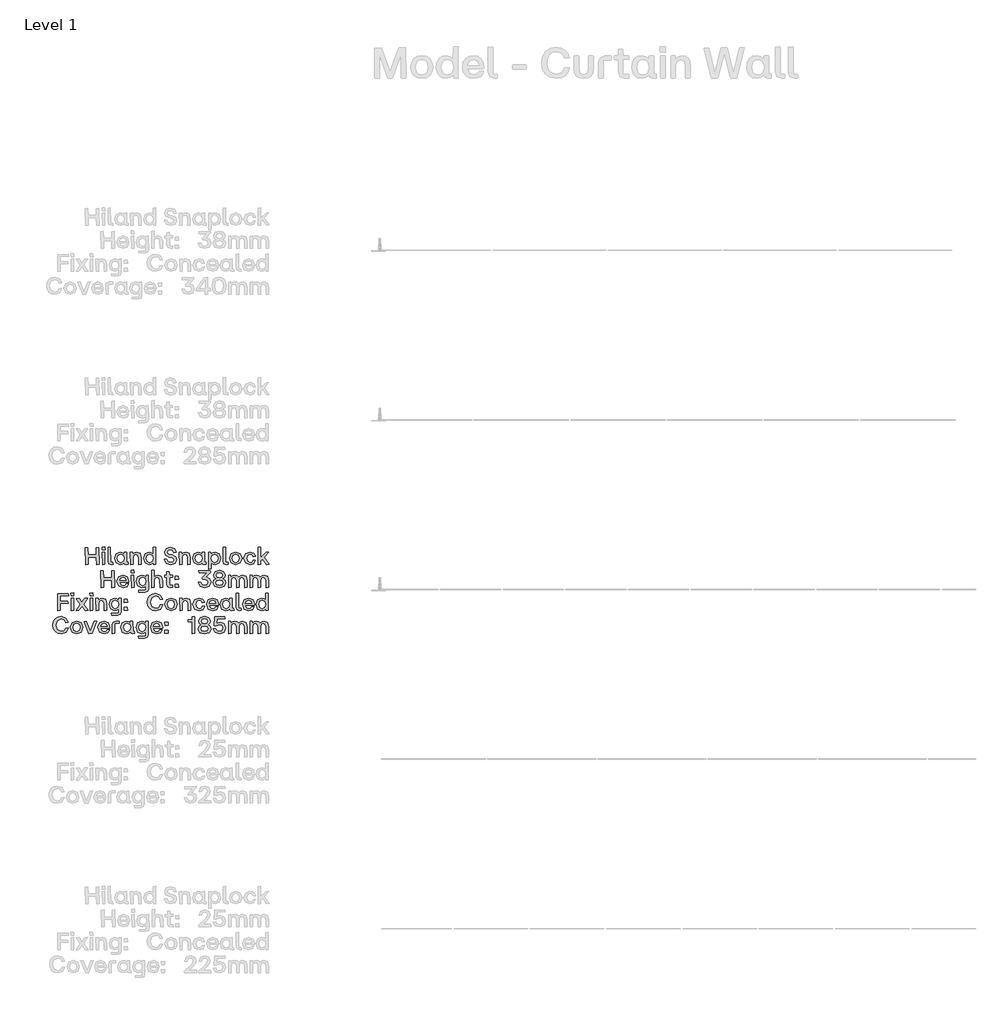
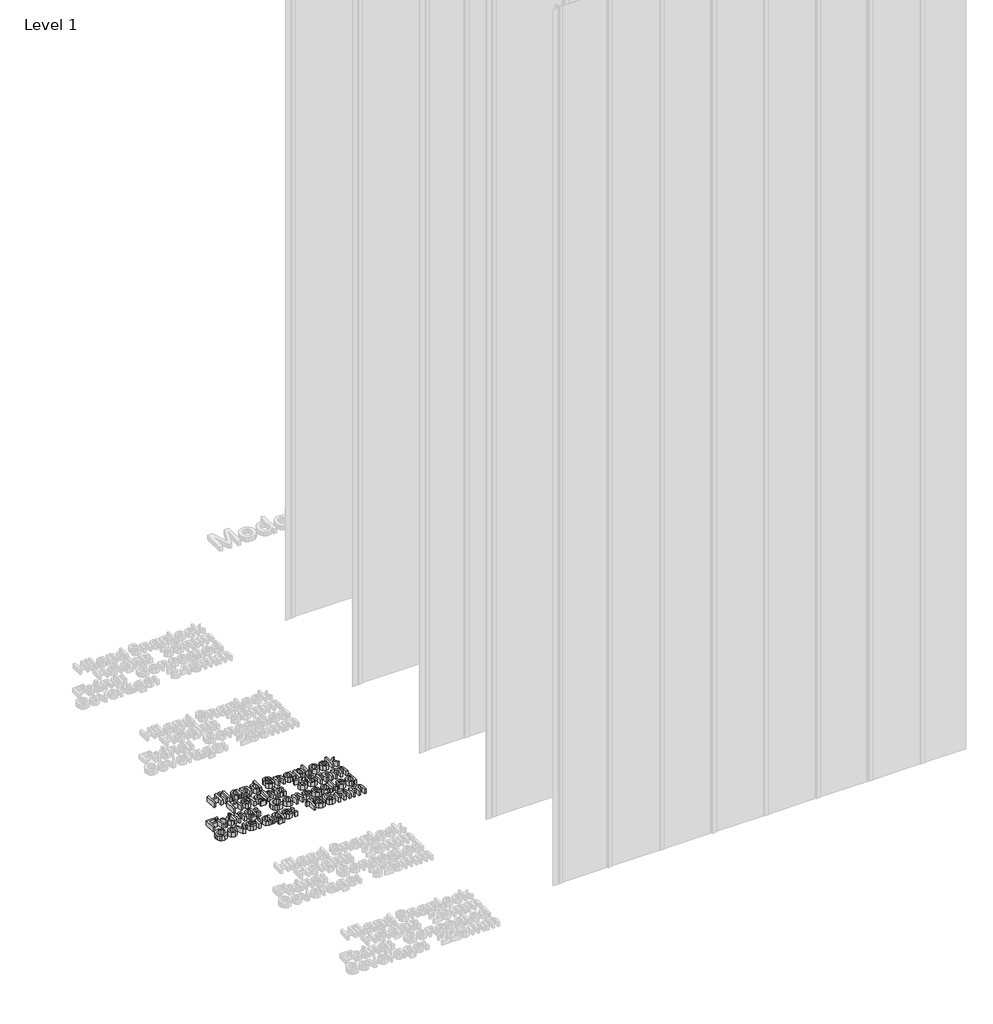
# One storey, part 5 of 64: 1 proxy.
"""IFC4 building model written with IfcOpenShell, lengths in millimetres."""

import ifcopenshell
import ifcopenshell.guid

model = None  # the IFC model being written
_history = None  # IfcOwnerHistory: only IFC2X3 demands one
_inside = {}  # id of a spatial element -> (the spatial element, [elements in it])
_under = {}  # id of a project, library or spatial element -> (it, [spatial elements below it])
_declared = {}  # id of a project -> (the project, [libraries it declares])
_typed = {}  # id of a type object -> (the type object, [elements of that type])
_made_of = {}  # id of a material, layer set ... -> (it, [elements and type objects made of it])


def new_model(schema):
    """Start an empty IFC model of exactly this schema.

    Asked for "IFC4X3", IfcOpenShell would pick the latest addendum, in which some entities
    have other attributes; the version numbers below select the first issue.
    IFC2X3 requires an IfcOwnerHistory on every rooted entity: one is made here for all.
    """
    global model, _history
    if schema == "IFC4X3":
        model = ifcopenshell.file(schema_version=(4, 3, 0, 0))
    else:
        model = ifcopenshell.file(schema=schema)
    _inside.clear()
    _under.clear()
    _declared.clear()
    _typed.clear()
    _made_of.clear()
    _history = None
    if model.schema == "IFC2X3":
        org = make("IfcOrganization", Name="unknown")
        user = make(
            "IfcPersonAndOrganization",
            ThePerson=make("IfcPerson", FamilyName="unknown"),
            TheOrganization=org,
        )
        app = make(
            "IfcApplication",
            ApplicationDeveloper=org,
            Version="unknown",
            ApplicationFullName="unknown",
            ApplicationIdentifier="unknown",
        )
        _history = make(
            "IfcOwnerHistory",
            OwningUser=user,
            OwningApplication=app,
            ChangeAction="ADDED",
            CreationDate=0,
        )
    return model


def make(cls, **values):
    """One entity of the class cls with the attributes given. An attribute that is None is left unset."""
    return model.create_entity(
        cls, **{name: value for name, value in values.items() if value is not None}
    )


def rooted(cls, **values):
    """An entity with a GlobalId (a new one), such as an element, a storey or a relation."""
    return make(cls, GlobalId=ifcopenshell.guid.new(), OwnerHistory=_history, **values)


def si_unit(unit_type, name, prefix=None):
    """IfcSIUnit, for example si_unit("LENGTHUNIT", "METRE", prefix="MILLI")."""
    return make("IfcSIUnit", UnitType=unit_type, Prefix=prefix, Name=name)


def assignment(units):
    """IfcUnitAssignment: the units of a project."""
    return None if units is None else make("IfcUnitAssignment", Units=units)


def point(xyz):
    """IfcCartesianPoint."""
    return None if xyz is None else make("IfcCartesianPoint", Coordinates=xyz)


def direction(xyz):
    """IfcDirection."""
    return None if xyz is None else make("IfcDirection", DirectionRatios=xyz)


def frame(location, z_axis=None, x_axis=None):
    """IfcAxis2Placement3D, a coordinate frame: its origin and axes. An axis left out is left unset."""
    return make(
        "IfcAxis2Placement3D",
        Location=point(location),
        Axis=direction(z_axis),
        RefDirection=direction(x_axis),
    )


def origin():
    """The frame at (0, 0, 0) with its axes left unset."""
    return frame((0.0, 0.0, 0.0))


def origin_with_axes():
    """The frame at (0, 0, 0) with the z axis (0, 0, 1) and the x axis (1, 0, 0) written out."""
    return frame((0.0, 0.0, 0.0), z_axis=(0.0, 0.0, 1.0), x_axis=(1.0, 0.0, 0.0))


def place(relative_to, where):
    """IfcLocalPlacement: puts the frame where relative to a parent placement (None: the world)."""
    return make(
        "IfcLocalPlacement", PlacementRelTo=relative_to, RelativePlacement=where
    )


def context(
    kind, dimensions, precision=None, world=None, true_north=None, identifier=None
):
    """IfcGeometricRepresentationContext, for example the 3D "Model" context."""
    return make(
        "IfcGeometricRepresentationContext",
        ContextIdentifier=identifier,
        ContextType=kind,
        CoordinateSpaceDimension=dimensions,
        Precision=precision,
        WorldCoordinateSystem=world,
        TrueNorth=true_north,
    )


def project(units=None, contexts=None):
    """IfcProject with its units and contexts."""
    return rooted(
        "IfcProject",
        Name="project",
        RepresentationContexts=contexts,
        UnitsInContext=assignment(units),
    )


def spatial(cls, under=None, at=None, **own):
    """A site, building, storey or space (cls), placed at a placement, below another one or the project."""
    s = rooted(cls, ObjectPlacement=at, **own)
    if under is not None:
        _under.setdefault(under.id(), (under, []))[1].append(s)
    return s


def polyline(points):
    """IfcPolyline through the points."""
    return make("IfcPolyline", Points=[point(p) for p in points])


def outline(outer, holes=None, kind="AREA"):
    """IfcArbitraryClosedProfileDef: a profile drawn as a closed curve; with holes, ...WithVoids."""
    if holes is None:
        return make("IfcArbitraryClosedProfileDef", ProfileType=kind, OuterCurve=outer)
    return make(
        "IfcArbitraryProfileDefWithVoids",
        ProfileType=kind,
        OuterCurve=outer,
        InnerCurves=holes,
    )


def extrude(swept, where, along, depth):
    """IfcExtrudedAreaSolid: the profile swept, set in the frame where, extruded along a direction by depth."""
    return make(
        "IfcExtrudedAreaSolid",
        SweptArea=swept,
        Position=where,
        ExtrudedDirection=direction(along),
        Depth=depth,
    )


def shape(context_of_items, identifier, shape_type, items):
    """IfcShapeRepresentation: the items that make up one representation, for example the "Body"."""
    return make(
        "IfcShapeRepresentation",
        ContextOfItems=context_of_items,
        RepresentationIdentifier=identifier,
        RepresentationType=shape_type,
        Items=items,
    )


def made_of(thing, what):
    """Note that an element or type object is made of a material, layer set ...; save() writes the relation."""
    if what is not None:
        _made_of.setdefault(what.id(), (what, []))[1].append(thing)
    return thing


def element(
    cls,
    number,
    at=None,
    inside=None,
    cuts=None,
    type_object=None,
    material=None,
    context=None,
    identifier="Body",
    shape_type=None,
    held_by="IfcProductDefinitionShape",
    body=None,
    shapes=None,
    **own,
):
    """One element of the class cls, such as IfcWall. Its Tag is "e" and its number.

    at: its placement. inside: the storey or other place that contains it. cuts: it is an
    opening in that element (IfcRelVoidsElement). A single representation is given by context,
    identifier, shape_type and body (its items); several are given by shapes. held_by: the class
    of the entity that holds the representations. save() writes the other relations.
    """
    e = rooted(cls, Tag="e%d" % number, ObjectPlacement=at, **own)
    if body is not None:
        shapes = [shape(context, identifier, shape_type, body)]
    if shapes is not None:
        e.Representation = make(held_by, Representations=shapes)
    if inside is not None:
        _inside.setdefault(inside.id(), (inside, []))[1].append(e)
    if cuts is not None:
        rooted(
            "IfcRelVoidsElement", RelatingBuildingElement=cuts, RelatedOpeningElement=e
        )
    if type_object is not None:
        _typed.setdefault(type_object.id(), (type_object, []))[1].append(e)
    return made_of(e, material)


def aggregate(whole, parts):
    """IfcRelAggregates: a whole, such as a stair, and the parts it consists of."""
    return rooted("IfcRelAggregates", RelatingObject=whole, RelatedObjects=parts)


def save(model, path):
    """Write the relations noted so far, then the file.

    IfcRelAggregates (storeys below a building ...), IfcRelContainedInSpatialStructure (elements
    in a storey), IfcRelDefinesByType, IfcRelAssociatesMaterial and IfcRelDeclares: one each for
    every whole, place, type object, material and project.
    """
    for whole, parts in _under.values():
        aggregate(whole, parts)
    for where, things in _inside.values():
        rooted(
            "IfcRelContainedInSpatialStructure",
            RelatedElements=things,
            RelatingStructure=where,
        )
    for kind, things in _typed.values():
        rooted("IfcRelDefinesByType", RelatedObjects=things, RelatingType=kind)
    for what, things in _made_of.values():
        rooted("IfcRelAssociatesMaterial", RelatedObjects=things, RelatingMaterial=what)
    for by, libraries in _declared.values():
        rooted("IfcRelDeclares", RelatingContext=by, RelatedDefinitions=libraries)
    model.write(path)


model = new_model("IFC4")

# Units and contexts
model_context = context("Model", 3, world=origin())
ifc_project = project(units=[si_unit("LENGTHUNIT", "METRE", prefix="MILLI")], contexts=[model_context])

# Site, building, storey
site = spatial("IfcSite", under=ifc_project)
building = spatial("IfcBuilding", under=site)
storey = spatial("IfcBuildingStorey", under=building, Name="Level 1", Elevation=0.0)

# Proxy
placement = place(None, origin())
element("IfcBuildingElementProxy", 1, Name="50mm", ObjectType="50mm", at=placement, inside=storey, context=model_context, shape_type="SweptSolid", body=[
    extrude(outline(polyline([(-811.1721134, -7933.5188866), (-811.8694452, -7911.5808277), (-835.7181932, -7911.5808277), (-835.7181932, -7932.8215548), (-843.2214836, -7933.5188866), (-843.9467087, -7884.2454206), (-836.457365, -7883.5201955), (-835.7181932, -7904.6075096), (-811.8694452, -7904.6075096), (-811.8694452, -7884.2454206), (-804.3801015, -7883.5201955), (-803.6827697, -7932.8215548), (-811.1721134, -7933.5188866)])), origin_with_axes(), (0.0, 0.0, 1.0), 20.0),
    extrude(outline(polyline([(-793.585405, -7933.5188866), (-794.3106301, -7897.8154977), (-787.1002191, -7897.1181659), (-786.4028873, -7932.8215548), (-793.585405, -7933.5188866)])), origin_with_axes(), (0.0, 0.0, 1.0), 20.0),
    extrude(outline(polyline([(-794.5198296, -7890.4516737), (-794.8684955, -7882.4044646), (-786.4726205, -7881.6652929), (-785.7334488, -7890.1030078), (-794.5198296, -7890.4516737)])), origin_with_axes(), (0.0, 0.0, 1.0), 20.0),
    extrude(outline(polyline([(-767.0031162, -7933.5188866), (-774.7016595, -7930.8690257), (-777.3515204, -7923.1565359), (-777.3515204, -7882.8228637), (-770.1411094, -7882.083692), (-769.4437776, -7927.2429003), (-762.7772854, -7927.2429003), (-762.0799536, -7932.8215548), (-767.0031162, -7933.5188866)])), origin_with_axes(), (0.0, 0.0, 1.0), 20.0),
    extrude(outline(polyline([(-741.9131175, -7933.9372857), (-753.6840786, -7928.8955767), (-758.0633224, -7915.3882594), (-753.6840786, -7901.7484491), (-741.9131175, -7896.6579269), (-735.2954386, -7898.2617901), (-730.3095161, -7902.6549805), (-729.9887435, -7897.8154977), (-722.8062258, -7897.1181659), (-722.0810007, -7927.2429003), (-718.1341027, -7927.2429003), (-717.4367709, -7932.8215548), (-723.4338245, -7933.5188866), (-728.0885143, -7932.2113895), (-729.6400776, -7928.288898), (-734.9955859, -7932.3334225), (-741.9131175, -7933.9372857)]), holes=[polyline([(-750.0021666, -7915.3882594), (-747.2477059, -7924.2792401), (-739.7234956, -7927.521833), (-732.3596717, -7924.2931867), (-729.7098108, -7915.3882594), (-732.3805916, -7906.392679), (-739.7234956, -7903.1152195), (-747.2477059, -7906.392679), (-750.0021666, -7915.3882594)])]), origin_with_axes(), (0.0, 0.0, 1.0), 20.0),
    extrude(outline(polyline([(-710.5750258, -7933.5188866), (-711.3002509, -7897.8154977), (-704.4385058, -7897.1181659), (-703.741174, -7902.6549805), (-698.5774319, -7898.1571903), (-691.9562663, -7896.6579269), (-682.3958472, -7900.8419178), (-679.083521, -7913.0870644), (-679.083521, -7932.8215548), (-686.3078786, -7933.5188866), (-687.0331037, -7913.0870644), (-688.9856328, -7905.7092939), (-695.1570194, -7903.3941522), (-701.3841925, -7905.7441604), (-703.3925081, -7913.0870644), (-703.3925081, -7932.8215548), (-710.5750258, -7933.5188866)])), origin_with_axes(), (0.0, 0.0, 1.0), 20.0),
    extrude(outline(polyline([(-656.2249842, -7933.9372857), (-667.9959452, -7928.8955767), (-672.375189, -7915.3882594), (-667.9959452, -7901.7484491), (-656.2249842, -7896.6579269), (-649.6073052, -7898.2617901), (-644.6213828, -7902.6549805), (-644.3006101, -7882.8228637), (-637.1180924, -7882.083692), (-636.3928674, -7932.8215548), (-643.2546124, -7933.5188866), (-643.9519442, -7928.0099653), (-649.3074526, -7932.3334225), (-656.2249842, -7933.9372857)]), holes=[polyline([(-664.3140332, -7915.3882594), (-661.5595725, -7924.2792401), (-654.0353623, -7927.521833), (-646.6715383, -7924.2931867), (-644.0216774, -7915.3882594), (-646.6924583, -7906.392679), (-654.0353623, -7903.1152195), (-661.5595725, -7906.392679), (-664.3140332, -7915.3882594)])]), origin_with_axes(), (0.0, 0.0, 1.0), 20.0),
    extrude(outline(polyline([(-592.2378169, -7933.9372857), (-605.8218406, -7929.823028), (-611.8049476, -7918.1078535), (-604.4411236, -7917.2989486), (-600.2780527, -7924.9417053), (-592.2378169, -7927.1034339), (-585.2854187, -7925.1160383), (-582.7959441, -7919.6001436), (-584.5183537, -7915.0186736), (-590.2852878, -7912.7383985), (-596.8820467, -7911.5808277), (-607.3629439, -7906.8180514), (-610.8565763, -7897.4668318), (-606.3797061, -7886.9022548), (-593.8835199, -7883.1017964), (-581.2897074, -7886.951068), (-575.6831596, -7897.8154977), (-583.0051436, -7898.610456), (-587.0287482, -7891.8672573), (-593.8835199, -7889.9635415), (-600.417519, -7891.706871), (-602.6699008, -7896.7973933), (-600.6615852, -7901.6299027), (-594.3716522, -7904.1612172), (-587.8167332, -7905.3048414), (-577.7193685, -7909.8932847), (-574.5953219, -7919.4606772), (-579.2883651, -7930.1019607), (-592.2378169, -7933.9372857)])), origin_with_axes(), (0.0, 0.0, 1.0), 20.0),
    extrude(outline(polyline([(-565.9763007, -7933.5188866), (-566.7015258, -7897.8154977), (-559.8397808, -7897.1181659), (-559.1424489, -7902.6549805), (-553.9787069, -7898.1571903), (-547.3575413, -7896.6579269), (-537.7971221, -7900.8419178), (-534.484796, -7913.0870644), (-534.484796, -7932.8215548), (-541.7091536, -7933.5188866), (-542.4343787, -7913.0870644), (-544.3869077, -7905.7092939), (-550.5582943, -7903.3941522), (-556.7854674, -7905.7441604), (-558.793783, -7913.0870644), (-558.793783, -7932.8215548), (-565.9763007, -7933.5188866)])), origin_with_axes(), (0.0, 0.0, 1.0), 20.0),
    extrude(outline(polyline([(-511.6262591, -7933.9372857), (-523.3972201, -7928.8955767), (-527.7764639, -7915.3882594), (-523.3972201, -7901.7484491), (-511.6262591, -7896.6579269), (-505.0085802, -7898.2617901), (-500.0226577, -7902.6549805), (-499.7018851, -7897.8154977), (-492.5193674, -7897.1181659), (-491.7941423, -7927.2429003), (-487.8472442, -7927.2429003), (-487.1499124, -7932.8215548), (-493.146966, -7933.5188866), (-497.8016559, -7932.2113895), (-499.3532192, -7928.288898), (-504.7087275, -7932.3334225), (-511.6262591, -7933.9372857)]), holes=[polyline([(-519.7153081, -7915.3882594), (-516.9608475, -7924.2792401), (-509.4366372, -7927.521833), (-502.0728132, -7924.2931867), (-499.4229523, -7915.3882594), (-502.0937332, -7906.392679), (-509.4366372, -7903.1152195), (-516.9608475, -7906.392679), (-519.7153081, -7915.3882594)])]), origin_with_axes(), (0.0, 0.0, 1.0), 20.0),
    extrude(outline(polyline([(-480.2881673, -7947.0750171), (-481.0133924, -7897.8154977), (-474.1516474, -7897.1181659), (-473.4543156, -7902.5852473), (-468.0988072, -7898.2617901), (-461.1812756, -7896.6579269), (-449.4103146, -7901.7135826), (-445.0310708, -7915.2487931), (-449.4103146, -7928.8607101), (-461.1812756, -7933.9372857), (-467.7989545, -7932.3334225), (-472.784877, -7927.9402321), (-473.1056497, -7946.3776853), (-480.2881673, -7947.0750171)]), holes=[polyline([(-473.3845824, -7915.2487931), (-470.7138015, -7924.2443735), (-463.3708975, -7927.521833), (-455.8466872, -7924.2443735), (-453.0922266, -7915.2487931), (-455.8466872, -7906.3578124), (-463.3708975, -7903.1152195), (-470.7347215, -7906.3368925), (-473.3845824, -7915.2487931)])]), origin_with_axes(), (0.0, 0.0, 1.0), 20.0),
    extrude(outline(polyline([(-427.8209216, -7933.5188866), (-435.5194648, -7930.8690257), (-438.1693257, -7923.1565359), (-438.1693257, -7882.8228637), (-430.9589148, -7882.083692), (-430.261583, -7927.2429003), (-423.5950908, -7927.2429003), (-422.897759, -7932.8215548), (-427.8209216, -7933.5188866)])), origin_with_axes(), (0.0, 0.0, 1.0), 20.0),
    extrude(outline(polyline([(-400.6807674, -7933.9372857), (-413.8394187, -7928.8118969), (-418.8811278, -7915.3882594), (-413.8254721, -7901.8530489), (-400.6807674, -7896.6579269), (-387.410543, -7901.8530489), (-382.3409407, -7915.3882594), (-387.410543, -7928.8118969), (-400.6807674, -7933.9372857)]), holes=[polyline([(-410.819972, -7915.3882594), (-408.1212979, -7924.2931867), (-400.6807674, -7927.521833), (-393.1426105, -7924.2792401), (-390.3881498, -7915.3882594), (-393.1286638, -7906.392679), (-400.6807674, -7903.1152195), (-408.1212979, -7906.392679), (-410.819972, -7915.3882594)])]), origin_with_axes(), (0.0, 0.0, 1.0), 20.0),
    extrude(outline(polyline([(-358.5898191, -7933.9372857), (-371.9228034, -7928.8955767), (-376.9296458, -7915.3882594), (-371.8530702, -7901.8530489), (-358.5898191, -7896.6579269), (-347.5161898, -7900.0957727), (-342.3001479, -7909.1820063), (-349.3153059, -7909.9490713), (-352.8856448, -7904.6493495), (-358.5898191, -7903.1152195), (-366.1488959, -7906.392679), (-368.86849, -7915.3882594), (-366.1349493, -7924.3141067), (-358.5898191, -7927.521833), (-352.7113119, -7926.0574362), (-349.733705, -7921.3155799), (-342.6488138, -7920.6461413), (-347.3069903, -7930.4994399), (-358.5898191, -7933.9372857)])), origin_with_axes(), (0.0, 0.0, 1.0), 20.0),
    extrude(outline(polyline([(-333.9042728, -7933.5188866), (-334.6294979, -7882.8228637), (-327.4190869, -7882.083692), (-326.7217551, -7912.8778649), (-311.4780817, -7897.4668318), (-303.5703389, -7897.1181659), (-316.2896712, -7912.0410667), (-302.2035685, -7932.6402485), (-309.8463252, -7933.5188866), (-321.5614997, -7917.2292154), (-326.7217551, -7922.2918444), (-326.7217551, -7932.8215548), (-333.9042728, -7933.5188866)])), origin_with_axes(), (0.0, 0.0, 1.0), 20.0),
    extrude(outline(polyline([(-765.6502925, -8001.3705811), (-766.3476243, -7979.4325222), (-790.1963724, -7979.4325222), (-790.1963724, -8000.6732493), (-797.6996627, -8001.3705811), (-798.4248878, -7952.0971151), (-790.9355441, -7951.37189), (-790.1963724, -7972.459204), (-766.3476243, -7972.459204), (-766.3476243, -7952.0971151), (-758.8582806, -7951.37189), (-758.1609488, -8000.6732493), (-765.6502925, -8001.3705811)])), origin_with_axes(), (0.0, 0.0, 1.0), 20.0),
    extrude(outline(polyline([(-732.5130847, -8001.7889802), (-745.9158022, -7996.7472711), (-750.9226446, -7983.2399539), (-745.9367221, -7969.586197), (-732.5130847, -7964.5096214), (-720.2330714, -7969.5164638), (-715.7352812, -7983.1702207), (-715.7352812, -7985.0809099), (-742.7917556, -7985.8200816), (-739.7234956, -7992.8631329), (-732.5130847, -7995.3735275), (-726.7252306, -7994.0974102), (-723.7267038, -7990.520098), (-716.6418126, -7989.9343393), (-721.2999891, -7998.6998002), (-732.5130847, -8001.7889802)]), holes=[polyline([(-742.7220224, -7980.0322275), (-723.5175043, -7980.0322275), (-726.1603919, -7973.3866554), (-732.5130847, -7970.966914), (-739.6049492, -7973.2681089), (-742.7220224, -7980.0322275)])]), origin_with_axes(), (0.0, 0.0, 1.0), 20.0),
    extrude(outline(polyline([(-708.8316963, -7958.3033682), (-709.1803622, -7950.2561591), (-700.7844871, -7949.5169873), (-700.0453154, -7957.9547023), (-708.8316963, -7958.3033682)])), origin_with_axes(), (0.0, 0.0, 1.0), 20.0),
    extrude(outline(polyline([(-707.8972716, -8001.3705811), (-708.6224967, -7965.6671922), (-701.4120858, -7964.9698603), (-700.7147539, -8000.6732493), (-707.8972716, -8001.3705811)])), origin_with_axes(), (0.0, 0.0, 1.0), 20.0),
    extrude(outline(polyline([(-686.2241988, -8014.9267115), (-686.9633706, -8009.348057), (-665.7226435, -8008.6507252), (-665.7226435, -7995.7919266), (-671.0293386, -8000.185117), (-677.6470175, -8001.7889802), (-689.4179785, -7996.7124045), (-693.7972223, -7983.1004875), (-689.4179785, -7969.565277), (-677.6470175, -7964.5096214), (-670.7294859, -7966.1134845), (-665.6529103, -7970.4369418), (-665.3739776, -7965.6671922), (-658.5401258, -7964.9698603), (-657.8149007, -8004.9269733), (-660.3950284, -8012.3675038), (-667.8146389, -8014.9267115), (-686.2241988, -8014.9267115)]), holes=[polyline([(-685.7360666, -7983.1004875), (-682.9816059, -7992.0960679), (-675.4573956, -7995.3735275), (-668.1144916, -7992.0960679), (-665.4437108, -7983.1004875), (-668.0935716, -7974.1885869), (-675.4573956, -7970.966914), (-682.9816059, -7974.2095069), (-685.7360666, -7983.1004875)])]), origin_with_axes(), (0.0, 0.0, 1.0), 20.0),
    extrude(outline(polyline([(-648.0940952, -8001.3705811), (-648.8193203, -7950.6745581), (-641.6089093, -7949.9353864), (-640.9115775, -7970.2277422), (-635.8245419, -7965.9391516), (-629.4753358, -7964.5096214), (-619.9149166, -7968.6936122), (-616.6025905, -7980.9387589), (-616.6025905, -8000.6732493), (-623.8269481, -8001.3705811), (-624.5521731, -7980.9387589), (-626.5047022, -7973.5609883), (-632.6760888, -7971.2458467), (-638.9032619, -7973.5958549), (-640.9115775, -7980.9387589), (-640.9115775, -8000.6732493), (-648.0940952, -8001.3705811)])), origin_with_axes(), (0.0, 0.0, 1.0), 20.0),
    extrude(outline(polyline([(-593.3256545, -8001.3705811), (-601.0381444, -7998.7207202), (-603.6880053, -7991.0082303), (-603.6880053, -7971.2458467), (-609.8942584, -7971.2458467), (-610.6194835, -7965.6671922), (-603.6880053, -7964.9698603), (-603.6880053, -7954.9561755), (-596.4636477, -7954.2309504), (-595.7663158, -7964.9698603), (-586.979935, -7964.9698603), (-586.2547099, -7970.506675), (-595.7663158, -7971.2458467), (-595.7663158, -7995.0945947), (-586.979935, -7995.0945947), (-586.2547099, -8000.6732493), (-593.3256545, -8001.3705811)])), origin_with_axes(), (0.0, 0.0, 1.0), 20.0),
    extrude(outline(polyline([(-578.849046, -7977.7310326), (-579.5463778, -7968.1078535), (-570.0626652, -7967.3686818), (-569.3374401, -7977.0337007), (-578.849046, -7977.7310326)])), origin_with_axes(), (0.0, 0.0, 1.0), 20.0),
    extrude(outline(polyline([(-579.1977119, -8001.0219152), (-579.5463778, -7991.747402), (-570.0626652, -7991.0082303), (-569.3374401, -8000.6732493), (-579.1977119, -8001.0219152)])), origin_with_axes(), (0.0, 0.0, 1.0), 20.0),
    extrude(outline(polyline([(-491.7244091, -8001.7889802), (-505.1201533, -7997.7235357), (-510.9428739, -7985.959548), (-503.57905, -7985.1506431), (-499.415979, -7992.7236666), (-491.7244091, -7994.9551284), (-484.5837313, -7992.5493336), (-481.9338704, -7985.959548), (-484.7022777, -7979.0908296), (-493.3701122, -7976.8942344), (-498.8093003, -7976.8942344), (-499.5066322, -7972.8078699), (-486.1457546, -7958.6520341), (-508.8508785, -7958.3731014), (-509.5761036, -7952.0971151), (-475.8670836, -7951.37189), (-475.1697518, -7956.1834795), (-488.0703904, -7970.0882759), (-477.3454271, -7975.2136647), (-473.7332483, -7985.959548), (-478.5797044, -7997.5352561), (-491.7244091, -8001.7889802)])), origin_with_axes(), (0.0, 0.0, 1.0), 20.0),
    extrude(outline(polyline([(-434.5710936, -7998.1768014), (-448.6153563, -8001.7889802), (-462.6875123, -7998.1768014), (-467.6246216, -7987.8702371), (-465.1490936, -7980.1368273), (-458.4895748, -7975.8063967), (-464.0542827, -7971.1691402), (-465.9091853, -7964.370155), (-461.2231155, -7954.5796163), (-448.6223296, -7950.9534909), (-436.0354904, -7954.5796163), (-431.3633672, -7964.370155), (-433.2182699, -7971.1691402), (-438.7829777, -7975.527464), (-432.1234589, -7980.1368273), (-429.647931, -7987.8702371), (-434.5710936, -7998.1768014)]), holes=[polyline([(-459.4239995, -7986.9358125), (-456.7218387, -7992.9502994), (-448.6153563, -7994.9551284), (-440.5402539, -7992.9502994), (-437.8485531, -7986.9358125), (-440.5402539, -7981.3606446), (-448.6153563, -7979.5022554), (-456.7218387, -7981.3606446), (-459.4239995, -7986.9358125)]), polyline([(-457.6806699, -7965.4579926), (-455.3446083, -7970.8065276), (-448.6153563, -7972.6684036), (-441.8861043, -7970.8065276), (-439.5500427, -7965.4579926), (-441.8861043, -7959.788685), (-448.6153563, -7957.8152359), (-455.3446083, -7959.788685), (-457.6806699, -7965.4579926)])]), origin_with_axes(), (0.0, 0.0, 1.0), 20.0),
    extrude(outline(polyline([(-421.3775756, -8001.3705811), (-422.1028007, -7965.6671922), (-415.2410557, -7964.9698603), (-414.5437239, -7970.506675), (-409.5578014, -7966.0088848), (-403.1074821, -7964.5096214), (-396.8210358, -7966.0088848), (-392.605665, -7970.506675), (-386.7829443, -7966.0646713), (-379.5376668, -7964.5096214), (-370.2631536, -7968.6796656), (-367.0554273, -7980.9387589), (-367.0554273, -8000.6732493), (-374.2658383, -8001.3705811), (-374.9631701, -7980.9387589), (-376.845966, -7973.5609883), (-382.8151263, -7971.2458467), (-388.7215268, -7973.5958549), (-390.6252426, -7980.9387589), (-390.6252426, -8000.6732493), (-397.8356536, -8001.3705811), (-398.5329854, -7980.9387589), (-400.4018347, -7973.5609883), (-406.3152085, -7971.2458467), (-412.2913421, -7973.5958549), (-414.195058, -7980.9387589), (-414.195058, -8000.6732493), (-421.3775756, -8001.3705811)])), origin_with_axes(), (0.0, 0.0, 1.0), 20.0),
    extrude(outline(polyline([(-358.0040603, -8001.3705811), (-358.7292854, -7965.6671922), (-351.8675404, -7964.9698603), (-351.1702086, -7970.506675), (-346.1842861, -7966.0088848), (-339.7339668, -7964.5096214), (-333.4475205, -7966.0088848), (-329.2321497, -7970.506675), (-323.409429, -7966.0646713), (-316.1641515, -7964.5096214), (-306.8896383, -7968.6796656), (-303.681912, -7980.9387589), (-303.681912, -8000.6732493), (-310.8923229, -8001.3705811), (-311.5896548, -7980.9387589), (-313.4724507, -7973.5609883), (-319.441611, -7971.2458467), (-325.3480115, -7973.5958549), (-327.2517273, -7980.9387589), (-327.2517273, -8000.6732493), (-334.4621383, -8001.3705811), (-335.1594701, -7980.9387589), (-337.0283194, -7973.5609883), (-342.9416931, -7971.2458467), (-348.9178268, -7973.5958549), (-350.8215426, -7980.9387589), (-350.8215426, -8000.6732493), (-358.0040603, -8001.3705811)])), origin_with_axes(), (0.0, 0.0, 1.0), 20.0),
    extrude(outline(polyline([(-925.3392781, -8069.2222755), (-926.0645031, -8019.9488095), (-894.4753719, -8019.2235844), (-893.7780401, -8025.527464), (-917.8359877, -8026.2247958), (-917.8359877, -8041.287163), (-895.9118755, -8041.287163), (-895.2145437, -8047.5631494), (-917.8359877, -8048.3023211), (-917.8359877, -8068.5249437), (-925.3392781, -8069.2222755)])), origin_with_axes(), (0.0, 0.0, 1.0), 20.0),
    extrude(outline(polyline([(-885.5216314, -8069.2222755), (-886.2468565, -8033.5188866), (-879.0364456, -8032.8215548), (-878.3391137, -8068.5249437), (-885.5216314, -8069.2222755)])), origin_with_axes(), (0.0, 0.0, 1.0), 20.0),
    extrude(outline(polyline([(-886.4560561, -8026.1550627), (-886.804722, -8018.1078535), (-878.4088469, -8017.3686818), (-877.6696752, -8025.8063967), (-886.4560561, -8026.1550627)])), origin_with_axes(), (0.0, 0.0, 1.0), 20.0),
    extrude(outline(polyline([(-871.4215821, -8069.2222755), (-858.6604099, -8050.7429824), (-870.8637167, -8033.658353), (-862.8722941, -8032.8215548), (-854.0859132, -8044.815662), (-845.8573978, -8033.2399539), (-837.7404555, -8032.8215548), (-849.3440569, -8049.9340775), (-836.303952, -8068.3436374), (-844.2953746, -8069.2222755), (-854.0161801, -8055.7916648), (-863.2906932, -8068.8038764), (-871.4215821, -8069.2222755)])), origin_with_axes(), (0.0, 0.0, 1.0), 20.0),
    extrude(outline(polyline([(-829.2887939, -8069.2222755), (-830.014019, -8033.5188866), (-822.803608, -8032.8215548), (-822.1062762, -8068.5249437), (-829.2887939, -8069.2222755)])), origin_with_axes(), (0.0, 0.0, 1.0), 20.0),
    extrude(outline(polyline([(-830.2232185, -8026.1550627), (-830.5718844, -8018.1078535), (-822.1760094, -8017.3686818), (-821.4368377, -8025.8063967), (-830.2232185, -8026.1550627)])), origin_with_axes(), (0.0, 0.0, 1.0), 20.0),
    extrude(outline(polyline([(-812.3296842, -8069.2222755), (-813.0549093, -8033.5188866), (-806.1931642, -8032.8215548), (-805.4958324, -8038.3583694), (-800.3320903, -8033.8605792), (-793.7109247, -8032.3613158), (-784.1505056, -8036.5453067), (-780.8381794, -8048.7904534), (-780.8381794, -8068.5249437), (-788.062537, -8069.2222755), (-788.7877621, -8048.7904534), (-790.7402912, -8041.4126828), (-796.9116778, -8039.0975411), (-803.1388509, -8041.4475493), (-805.1471665, -8048.7904534), (-805.1471665, -8068.5249437), (-812.3296842, -8069.2222755)])), origin_with_axes(), (0.0, 0.0, 1.0), 20.0),
    extrude(outline(polyline([(-766.5568239, -8082.778406), (-767.2959956, -8077.1997515), (-746.0552685, -8076.5024197), (-746.0552685, -8063.643621), (-751.3619636, -8068.0368114), (-757.9796426, -8069.6406746), (-769.7506036, -8064.564099), (-774.1298474, -8050.952182), (-769.7506036, -8037.4169715), (-757.9796426, -8032.3613158), (-751.0621109, -8033.965179), (-745.9855353, -8038.2886362), (-745.7066026, -8033.5188866), (-738.8727508, -8032.8215548), (-738.1475257, -8072.7786678), (-740.7276535, -8080.2191982), (-748.147264, -8082.778406), (-766.5568239, -8082.778406)]), holes=[polyline([(-766.0686916, -8050.952182), (-763.3142309, -8059.9477624), (-755.7900207, -8063.2252219), (-748.4471166, -8059.9477624), (-745.7763358, -8050.952182), (-748.4261967, -8042.0402814), (-755.7900207, -8038.8186084), (-763.3142309, -8042.0612013), (-766.0686916, -8050.952182)])]), origin_with_axes(), (0.0, 0.0, 1.0), 20.0),
    extrude(outline(polyline([(-728.8032794, -8045.582727), (-729.5006112, -8035.959548), (-720.0168986, -8035.2203762), (-719.2916735, -8044.8853952), (-728.8032794, -8045.582727)])), origin_with_axes(), (0.0, 0.0, 1.0), 20.0),
    extrude(outline(polyline([(-729.1519453, -8068.8736096), (-729.5006112, -8059.5990965), (-720.0168986, -8058.8599248), (-719.2916735, -8068.5249437), (-729.1519453, -8068.8736096)])), origin_with_axes(), (0.0, 0.0, 1.0), 20.0),
    extrude(outline(polyline([(-637.0483593, -8069.6406746), (-647.0550708, -8067.9269817), (-654.7605874, -8062.7859029), (-659.6767766, -8054.7160305), (-661.3155064, -8044.2159567), (-659.66283, -8033.8919591), (-654.7048008, -8025.7924501), (-646.9853376, -8020.5520015), (-637.0483593, -8018.8051853), (-622.8716035, -8023.4215219), (-615.9192053, -8035.7085085), (-623.2411893, -8036.5174134), (-628.4049314, -8028.3272513), (-637.0483593, -8025.8063967), (-648.7077472, -8030.743506), (-652.9475246, -8044.2159567), (-648.7286672, -8057.7999804), (-637.0483593, -8062.6673565), (-628.2340851, -8060.1813685), (-623.5480153, -8052.7234048), (-616.1284048, -8052.0679129), (-622.5926707, -8065.0382846), (-637.0483593, -8069.6406746)])), origin_with_axes(), (0.0, 0.0, 1.0), 20.0),
    extrude(outline(polyline([(-591.693898, -8069.6406746), (-604.8525494, -8064.5152858), (-609.8942584, -8051.0916483), (-604.8386027, -8037.5564378), (-591.693898, -8032.3613158), (-578.4236736, -8037.5564378), (-573.3540713, -8051.0916483), (-578.4236736, -8064.5152858), (-591.693898, -8069.6406746)]), holes=[polyline([(-601.8331026, -8051.0916483), (-599.1344285, -8059.9965756), (-591.693898, -8063.2252219), (-584.1557411, -8059.982629), (-581.4012805, -8051.0916483), (-584.1417945, -8042.0960679), (-591.693898, -8038.8186084), (-599.1344285, -8042.0960679), (-601.8331026, -8051.0916483)])]), origin_with_axes(), (0.0, 0.0, 1.0), 20.0),
    extrude(outline(polyline([(-565.083716, -8069.2222755), (-565.8089411, -8033.5188866), (-558.947196, -8032.8215548), (-558.2498642, -8038.3583694), (-553.0861221, -8033.8605792), (-546.4649565, -8032.3613158), (-536.9045374, -8036.5453067), (-533.5922113, -8048.7904534), (-533.5922113, -8068.5249437), (-540.8165689, -8069.2222755), (-541.5417939, -8048.7904534), (-543.494323, -8041.4126828), (-549.6657096, -8039.0975411), (-555.8928827, -8041.4475493), (-557.9011983, -8048.7904534), (-557.9011983, -8068.5249437), (-565.083716, -8069.2222755)])), origin_with_axes(), (0.0, 0.0, 1.0), 20.0),
    extrude(outline(polyline([(-508.5440525, -8069.6406746), (-521.8770368, -8064.5989656), (-526.8838792, -8051.0916483), (-521.8073036, -8037.5564378), (-508.5440525, -8032.3613158), (-497.4704233, -8035.7991616), (-492.2543813, -8044.8853952), (-499.2695393, -8045.6524602), (-502.8398782, -8040.3527384), (-508.5440525, -8038.8186084), (-516.1031293, -8042.0960679), (-518.8227234, -8051.0916483), (-516.0891827, -8060.0174956), (-508.5440525, -8063.2252219), (-502.6655453, -8061.7608251), (-499.6879384, -8057.0189688), (-492.6030472, -8056.3495302), (-497.2612237, -8066.2028288), (-508.5440525, -8069.6406746)])), origin_with_axes(), (0.0, 0.0, 1.0), 20.0),
    extrude(outline(polyline([(-468.3080068, -8069.6406746), (-481.7107242, -8064.5989656), (-486.7175667, -8051.0916483), (-481.7316442, -8037.4378914), (-468.3080068, -8032.3613158), (-456.0279935, -8037.3681582), (-451.5302033, -8051.0219152), (-451.5302033, -8052.9326043), (-478.5866777, -8053.6717761), (-475.5184177, -8060.7148274), (-468.3080068, -8063.2252219), (-462.5201527, -8061.9491047), (-459.5216259, -8058.3717925), (-452.4367347, -8057.7860338), (-457.0949112, -8066.5514947), (-468.3080068, -8069.6406746)]), holes=[polyline([(-478.5169445, -8047.883922), (-459.3124264, -8047.883922), (-461.9553139, -8041.2383498), (-468.3080068, -8038.8186084), (-475.3998713, -8041.1198034), (-478.5169445, -8047.883922)])]), origin_with_axes(), (0.0, 0.0, 1.0), 20.0),
    extrude(outline(polyline([(-430.4010493, -8069.6406746), (-442.1720104, -8064.5989656), (-446.5512542, -8051.0916483), (-442.1720104, -8037.4518381), (-430.4010493, -8032.3613158), (-423.7833704, -8033.965179), (-418.7974479, -8038.3583694), (-418.4766753, -8033.5188866), (-411.2941576, -8032.8215548), (-410.5689325, -8062.9462892), (-406.6220345, -8062.9462892), (-405.9247026, -8068.5249437), (-411.9217562, -8069.2222755), (-416.5764461, -8067.9147784), (-418.1280094, -8063.9922869), (-423.4835177, -8068.0368114), (-430.4010493, -8069.6406746)]), holes=[polyline([(-438.4900984, -8051.0916483), (-435.7356377, -8059.982629), (-428.2114274, -8063.2252219), (-420.8476035, -8059.9965756), (-418.1977426, -8051.0916483), (-420.8685234, -8042.0960679), (-428.2114274, -8038.8186084), (-435.7356377, -8042.0960679), (-438.4900984, -8051.0916483)])]), origin_with_axes(), (0.0, 0.0, 1.0), 20.0),
    extrude(outline(polyline([(-389.4397785, -8069.2222755), (-397.1383218, -8066.5724146), (-399.7881827, -8058.8599248), (-399.7881827, -8018.5262526), (-392.5777717, -8017.7870809), (-391.8804399, -8062.9462892), (-385.2139477, -8062.9462892), (-384.5166159, -8068.5249437), (-389.4397785, -8069.2222755)])), origin_with_axes(), (0.0, 0.0, 1.0), 20.0),
    extrude(outline(polyline([(-362.0904248, -8069.6406746), (-375.4931422, -8064.5989656), (-380.4999847, -8051.0916483), (-375.5140622, -8037.4378914), (-362.0904248, -8032.3613158), (-349.8104115, -8037.3681582), (-345.3126213, -8051.0219152), (-345.3126213, -8052.9326043), (-372.3690957, -8053.6717761), (-369.3008357, -8060.7148274), (-362.0904248, -8063.2252219), (-356.3025707, -8061.9491047), (-353.3040439, -8058.3717925), (-346.2191527, -8057.7860338), (-350.8773292, -8066.5514947), (-362.0904248, -8069.6406746)]), holes=[polyline([(-372.2993625, -8047.883922), (-353.0948444, -8047.883922), (-355.7377319, -8041.2383498), (-362.0904248, -8038.8186084), (-369.1822893, -8041.1198034), (-372.2993625, -8047.883922)])]), origin_with_axes(), (0.0, 0.0, 1.0), 20.0),
    extrude(outline(polyline([(-324.1834673, -8069.6406746), (-335.9544284, -8064.5989656), (-340.3336722, -8051.0916483), (-335.9544284, -8037.4518381), (-324.1834673, -8032.3613158), (-317.5657884, -8033.965179), (-312.5798659, -8038.3583694), (-312.2590933, -8018.5262526), (-305.0765756, -8017.7870809), (-304.3513505, -8068.5249437), (-311.2130956, -8069.2222755), (-311.9104274, -8063.7133542), (-317.2659357, -8068.0368114), (-324.1834673, -8069.6406746)]), holes=[polyline([(-332.2725164, -8051.0916483), (-329.5180557, -8059.982629), (-321.9938454, -8063.2252219), (-314.6300215, -8059.9965756), (-311.9801606, -8051.0916483), (-314.6509414, -8042.0960679), (-321.9938454, -8038.8186084), (-329.5180557, -8042.0960679), (-332.2725164, -8051.0916483)])]), origin_with_axes(), (0.0, 0.0, 1.0), 20.0),
    extrude(outline(polyline([(-915.5347927, -8137.4923691), (-925.5415043, -8135.7786761), (-933.2470208, -8130.6375973), (-938.1632101, -8122.5677249), (-939.8019399, -8112.0676511), (-938.1492635, -8101.7436536), (-933.1912343, -8093.6441446), (-925.4717711, -8088.403696), (-915.5347927, -8086.6568798), (-901.3580369, -8091.2732164), (-894.4056388, -8103.560203), (-901.7276228, -8104.3691079), (-906.8913649, -8096.1789457), (-915.5347927, -8093.6580912), (-927.1941807, -8098.5952004), (-931.4339581, -8112.0676511), (-927.2151006, -8125.6516749), (-915.5347927, -8130.5190509), (-906.7205186, -8128.033063), (-902.0344488, -8120.5750992), (-894.6148383, -8119.9196073), (-901.0791042, -8132.8899791), (-915.5347927, -8137.4923691)])), origin_with_axes(), (0.0, 0.0, 1.0), 20.0),
    extrude(outline(polyline([(-870.1803315, -8137.4923691), (-883.3389829, -8132.3669802), (-888.3806919, -8118.9433428), (-883.3250362, -8105.4081323), (-870.1803315, -8100.2130103), (-856.9101071, -8105.4081323), (-851.8405048, -8118.9433428), (-856.9101071, -8132.3669802), (-870.1803315, -8137.4923691)]), holes=[polyline([(-880.3195361, -8118.9433428), (-877.620862, -8127.8482701), (-870.1803315, -8131.0769164), (-862.6421746, -8127.8343234), (-859.8877139, -8118.9433428), (-862.628228, -8109.9477624), (-870.1803315, -8106.6703029), (-877.620862, -8109.9477624), (-880.3195361, -8118.9433428)])]), origin_with_axes(), (0.0, 0.0, 1.0), 20.0),
    extrude(outline(polyline([(-833.7377709, -8137.07397), (-848.1306995, -8101.5100474), (-840.8784487, -8100.6732493), (-829.4422069, -8130.5887841), (-818.6056705, -8101.2311147), (-811.2418465, -8100.6732493), (-824.3516847, -8136.5161045), (-833.7377709, -8137.07397)])), origin_with_axes(), (0.0, 0.0, 1.0), 20.0),
    extrude(outline(polyline([(-788.7459222, -8137.4923691), (-802.1486397, -8132.45066), (-807.1554821, -8118.9433428), (-802.1695596, -8105.2895859), (-788.7459222, -8100.2130103), (-776.465909, -8105.2198527), (-771.9681188, -8118.8736096), (-771.9681188, -8120.7842988), (-799.0245932, -8121.5234705), (-795.9563332, -8128.5665218), (-788.7459222, -8131.0769164), (-782.9580681, -8129.8007992), (-779.9595413, -8126.2234869), (-772.8746501, -8125.6377282), (-777.5328266, -8134.4031891), (-788.7459222, -8137.4923691)]), holes=[polyline([(-798.95486, -8115.7356165), (-779.7503418, -8115.7356165), (-782.3932294, -8109.0900443), (-788.7459222, -8106.6703029), (-795.8377868, -8108.9714978), (-798.95486, -8115.7356165)])]), origin_with_axes(), (0.0, 0.0, 1.0), 20.0),
    extrude(outline(polyline([(-764.5066683, -8137.07397), (-765.2040001, -8110.9937601), (-762.5541393, -8103.3021902), (-754.855596, -8100.6732493), (-744.7024448, -8100.6732493), (-744.005113, -8106.6703029), (-757.2962574, -8107.3676347), (-757.2962574, -8136.3766382), (-764.5066683, -8137.07397)])), origin_with_axes(), (0.0, 0.0, 1.0), 20.0),
    extrude(outline(polyline([(-723.1688384, -8137.4923691), (-734.9397994, -8132.45066), (-739.3190432, -8118.9433428), (-734.9397994, -8105.3035325), (-723.1688384, -8100.2130103), (-716.5511594, -8101.8168734), (-711.565237, -8106.2100639), (-711.2444643, -8101.3705811), (-704.0619466, -8100.6732493), (-703.3367216, -8130.7979836), (-699.3898235, -8130.7979836), (-698.6924917, -8136.3766382), (-704.6895453, -8137.07397), (-709.3442351, -8135.7664728), (-710.8957984, -8131.8439814), (-716.2513068, -8135.8885059), (-723.1688384, -8137.4923691)]), holes=[polyline([(-731.2578874, -8118.9433428), (-728.5034267, -8127.8343234), (-720.9792165, -8131.0769164), (-713.6153925, -8127.8482701), (-710.9655316, -8118.9433428), (-713.6363125, -8109.9477624), (-720.9792165, -8106.6703029), (-728.5034267, -8109.9477624), (-731.2578874, -8118.9433428)])]), origin_with_axes(), (0.0, 0.0, 1.0), 20.0),
    extrude(outline(polyline([(-687.1167836, -8150.6301005), (-687.8559553, -8145.0514459), (-666.6152282, -8144.3541141), (-666.6152282, -8131.4953155), (-671.9219233, -8135.8885059), (-678.5396022, -8137.4923691), (-690.3105633, -8132.4157935), (-694.6898071, -8118.8038764), (-690.3105633, -8105.2686659), (-678.5396022, -8100.2130103), (-671.6220706, -8101.8168734), (-666.545495, -8106.1403307), (-666.2665623, -8101.3705811), (-659.4327105, -8100.6732493), (-658.7074854, -8140.6303622), (-661.2876131, -8148.0708927), (-668.7072236, -8150.6301005), (-687.1167836, -8150.6301005)]), holes=[polyline([(-686.6286513, -8118.8038764), (-683.8741906, -8127.7994568), (-676.3499803, -8131.0769164), (-669.0070763, -8127.7994568), (-666.3362955, -8118.8038764), (-668.9861564, -8109.8919758), (-676.3499803, -8106.6703029), (-683.8741906, -8109.9128958), (-686.6286513, -8118.8038764)])]), origin_with_axes(), (0.0, 0.0, 1.0), 20.0),
    extrude(outline(polyline([(-633.4361805, -8137.4923691), (-646.8388979, -8132.45066), (-651.8457404, -8118.9433428), (-646.8598179, -8105.2895859), (-633.4361805, -8100.2130103), (-621.1561672, -8105.2198527), (-616.658377, -8118.8736096), (-616.658377, -8120.7842988), (-643.7148514, -8121.5234705), (-640.6465914, -8128.5665218), (-633.4361805, -8131.0769164), (-627.6483264, -8129.8007992), (-624.6497996, -8126.2234869), (-617.5649084, -8125.6377282), (-622.2230849, -8134.4031891), (-633.4361805, -8137.4923691)]), holes=[polyline([(-643.6451182, -8115.7356165), (-624.4406001, -8115.7356165), (-627.0834876, -8109.0900443), (-633.4361805, -8106.6703029), (-640.528045, -8108.9714978), (-643.6451182, -8115.7356165)])]), origin_with_axes(), (0.0, 0.0, 1.0), 20.0),
    extrude(outline(polyline([(-609.1969266, -8113.4344215), (-609.8942584, -8103.8112424), (-600.4105457, -8103.0720707), (-599.6853206, -8112.7370896), (-609.1969266, -8113.4344215)])), origin_with_axes(), (0.0, 0.0, 1.0), 20.0),
    extrude(outline(polyline([(-609.5455925, -8136.7253041), (-609.8942584, -8127.4507909), (-600.4105457, -8126.7116192), (-599.6853206, -8136.3766382), (-609.5455925, -8136.7253041)])), origin_with_axes(), (0.0, 0.0, 1.0), 20.0),
    extrude(outline(polyline([(-528.8364083, -8137.07397), (-529.57558, -8102.0679129), (-540.6213159, -8102.0679129), (-541.3604877, -8095.7919266), (-529.2269141, -8095.0945947), (-529.2269141, -8087.800504), (-521.9328233, -8087.0752789), (-521.2075982, -8136.3766382), (-528.8364083, -8137.07397)])), origin_with_axes(), (0.0, 0.0, 1.0), 20.0),
    extrude(outline(polyline([(-478.307745, -8133.8801903), (-492.3520077, -8137.4923691), (-506.4241638, -8133.8801903), (-511.361273, -8123.573626), (-508.8857451, -8115.8402162), (-502.2262262, -8111.5097857), (-507.7909341, -8106.8725291), (-509.6458367, -8100.0735439), (-504.9597669, -8090.2830052), (-492.3589811, -8086.6568798), (-479.7721418, -8090.2830052), (-475.1000186, -8100.0735439), (-476.9549213, -8106.8725291), (-482.5196292, -8111.2308529), (-475.8601103, -8115.8402162), (-473.3845824, -8123.573626), (-478.307745, -8133.8801903)]), holes=[polyline([(-503.1606509, -8122.6392014), (-500.4584901, -8128.6536883), (-492.3520077, -8130.6585173), (-484.2769053, -8128.6536883), (-481.5852045, -8122.6392014), (-484.2769053, -8117.0640336), (-492.3520077, -8115.2056443), (-500.4584901, -8117.0640336), (-503.1606509, -8122.6392014)]), polyline([(-501.4173213, -8101.1613815), (-499.0812597, -8106.5099165), (-492.3520077, -8108.3717925), (-485.6227557, -8106.5099165), (-483.2866941, -8101.1613815), (-485.6227557, -8095.4920739), (-492.3520077, -8093.5186248), (-499.0812597, -8095.4920739), (-501.4173213, -8101.1613815)])]), origin_with_axes(), (0.0, 0.0, 1.0), 20.0),
    extrude(outline(polyline([(-448.1969572, -8137.4923691), (-461.3974485, -8133.7965104), (-467.2062225, -8123.0854938), (-459.8423985, -8122.2905355), (-455.634001, -8128.7234215), (-448.1969572, -8130.6585173), (-440.7912934, -8127.9737898), (-438.197219, -8120.3658997), (-440.7773467, -8113.0648356), (-448.3364236, -8110.575361), (-458.6987744, -8114.5083125), (-463.5382572, -8114.2293797), (-462.4922594, -8087.800504), (-432.8556573, -8087.0752789), (-432.1304322, -8093.3791585), (-455.8397139, -8094.0764903), (-456.6346722, -8106.740036), (-451.4604701, -8104.5434408), (-445.7562959, -8103.7415092), (-434.2015077, -8108.1695663), (-429.9965969, -8120.3658997), (-434.8081864, -8132.9736589), (-448.1969572, -8137.4923691)])), origin_with_axes(), (0.0, 0.0, 1.0), 20.0),
    extrude(outline(polyline([(-421.3775756, -8137.07397), (-422.1028007, -8101.3705811), (-415.2410557, -8100.6732493), (-414.5437239, -8106.2100639), (-409.5578014, -8101.7122737), (-403.1074821, -8100.2130103), (-396.8210358, -8101.7122737), (-392.605665, -8106.2100639), (-386.7829443, -8101.7680602), (-379.5376668, -8100.2130103), (-370.2631536, -8104.3830545), (-367.0554273, -8116.6421478), (-367.0554273, -8136.3766382), (-374.2658383, -8137.07397), (-374.9631701, -8116.6421478), (-376.845966, -8109.2643772), (-382.8151263, -8106.9492356), (-388.7215268, -8109.2992438), (-390.6252426, -8116.6421478), (-390.6252426, -8136.3766382), (-397.8356536, -8137.07397), (-398.5329854, -8116.6421478), (-400.4018347, -8109.2643772), (-406.3152085, -8106.9492356), (-412.2913421, -8109.2992438), (-414.195058, -8116.6421478), (-414.195058, -8136.3766382), (-421.3775756, -8137.07397)])), origin_with_axes(), (0.0, 0.0, 1.0), 20.0),
    extrude(outline(polyline([(-358.0040603, -8137.07397), (-358.7292854, -8101.3705811), (-351.8675404, -8100.6732493), (-351.1702086, -8106.2100639), (-346.1842861, -8101.7122737), (-339.7339668, -8100.2130103), (-333.4475205, -8101.7122737), (-329.2321497, -8106.2100639), (-323.409429, -8101.7680602), (-316.1641515, -8100.2130103), (-306.8896383, -8104.3830545), (-303.681912, -8116.6421478), (-303.681912, -8136.3766382), (-310.8923229, -8137.07397), (-311.5896548, -8116.6421478), (-313.4724507, -8109.2643772), (-319.441611, -8106.9492356), (-325.3480115, -8109.2992438), (-327.2517273, -8116.6421478), (-327.2517273, -8136.3766382), (-334.4621383, -8137.07397), (-335.1594701, -8116.6421478), (-337.0283194, -8109.2643772), (-342.9416931, -8106.9492356), (-348.9178268, -8109.2992438), (-350.8215426, -8116.6421478), (-350.8215426, -8136.3766382), (-358.0040603, -8137.07397)])), origin_with_axes(), (0.0, 0.0, 1.0), 20.0),
])

save(model, "model.ifc")
